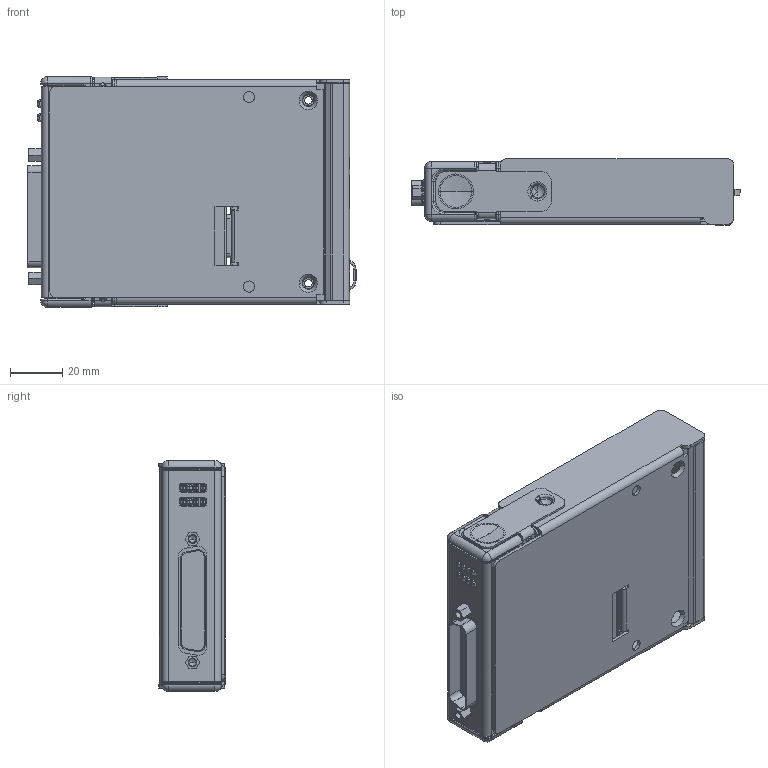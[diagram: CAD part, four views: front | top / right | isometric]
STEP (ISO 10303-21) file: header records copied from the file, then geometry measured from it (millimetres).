
FILE_DESCRIPTION((''),'2;1');
FILE_NAME('CU_USB_CARRIER_DSUB_25','2007-11-07T',('tvenable'),(''),'PRO/ENGINEER BY PARAMETRIC TECHNOLOGY CORPORATION, 2006080','PRO/ENGINEER BY PARAMETRIC TECHNOLOGY CORPORATION, 2006080','');
FILE_SCHEMA(('CONFIG_CONTROL_DESIGN'));
Products named in the file (1): CU_USB_CARRIER_DSUB_25
Bounding box: 125.19 x 25.34 x 88.12 mm (x, y, z)
Volume: 71353.8 mm3; surface area: 87791.6 mm2
Topology: 14 solids, 14 shells, 2135 faces, 5158 edges, 3074 vertices
Faces by surface type: plane 827, cylinder 683, bspline 417, cone 71, sphere 71, torus 60, extrusion 6
Entity records: 86744 total; most frequent: CARTESIAN_POINT 40099, ORIENTED_EDGE 10166, DIRECTION 8804, EDGE_CURVE 5083, VERTEX_POINT 3112, AXIS2_PLACEMENT_3D 3096, VECTOR 2612, LINE 2606
